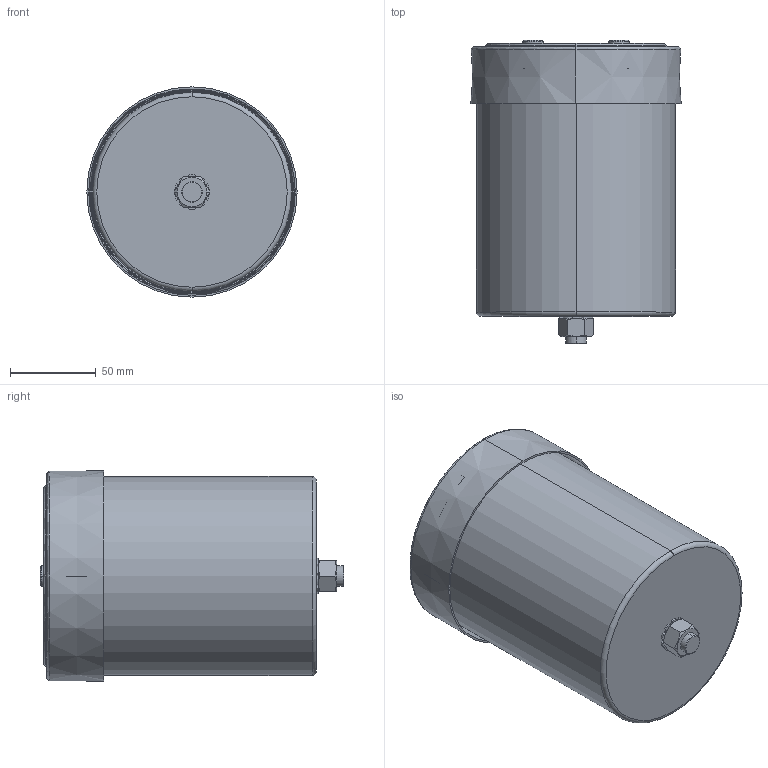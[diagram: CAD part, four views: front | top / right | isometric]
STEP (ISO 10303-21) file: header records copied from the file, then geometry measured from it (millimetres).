
FILE_DESCRIPTION (( 'STEP AP203' ), '1' );
FILE_NAME ('B25680Cx_116x159_161.STEP', '2021-09-30T02:37:49', ( '' ), ( '' ), 'SwSTEP 2.0', 'SolidWorks 2017', '' );
FILE_SCHEMA (( 'CONFIG_CONTROL_DESIGN' ));
Length unit declared in the file: millimetre
Products named in the file (1): B25680Cx_116x159_161
Bounding box: 122.58 x 177 x 122.58 mm (x, y, z)
Volume: 152333.4 mm3; surface area: 231867.9 mm2
Topology: 1 solids, 7 shells, 577 faces, 1430 edges, 903 vertices
Faces by surface type: plane 209, cylinder 168, bspline 83, cone 75, torus 42
Entity records: 20405 total; most frequent: CARTESIAN_POINT 6993, ORIENTED_EDGE 2834, DIRECTION 2774, EDGE_CURVE 1417, AXIS2_PLACEMENT_3D 1124, VERTEX_POINT 903, EDGE_LOOP 640, CIRCLE 629
